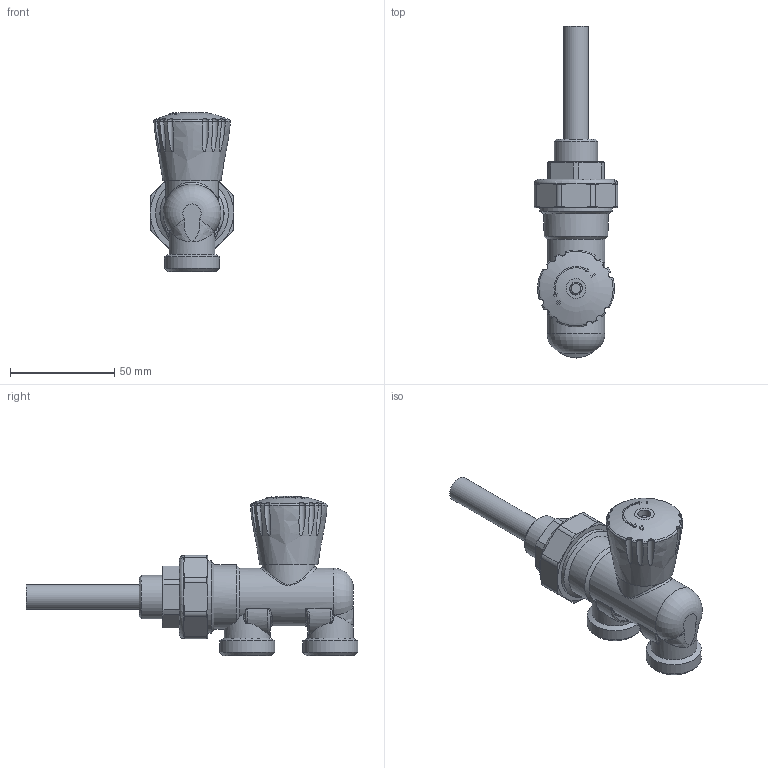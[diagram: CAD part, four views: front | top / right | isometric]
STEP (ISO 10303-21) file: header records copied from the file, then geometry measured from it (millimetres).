
FILE_DESCRIPTION(('STEP AP203'), '1');
FILE_NAME('VT.022.N.E04100', '2024-06-28T06:53:21', ('User'), ('Vesta'), 'C3D Converter', 'C3D Toolkit', '');
FILE_SCHEMA(('CONFIG_CONTROL_DESIGN'));
Length unit declared in the file: millimetre
Products named in the file (1): ВР.493241.002.000 СБ
Bounding box: 40 x 159.42 x 76.4 mm (x, y, z)
Volume: 119214.5 mm3; surface area: 21577.9 mm2
Topology: 1 solids, 5 shells, 196 faces, 495 edges, 315 vertices
Faces by surface type: plane 63, cylinder 52, bspline 31, torus 29, cone 21
Full cylindrical faces by diameter (mm): 5.8 x1, 6.2 x1, 12 x1, 20.955 x1, 22 x2, 25.3 x1, 26.441 x2, 27.8 x1, 29.7 x1, 30 x1, 30.8 x1, 35 x1
Entity records: 13733 total; most frequent: CARTESIAN_POINT 9651, ORIENTED_EDGE 924, DIRECTION 660, EDGE_CURVE 462, VERTEX_POINT 319, AXIS2_PLACEMENT_3D 292, B_SPLINE_CURVE_WITH_KNOTS 258, EDGE_LOOP 228
